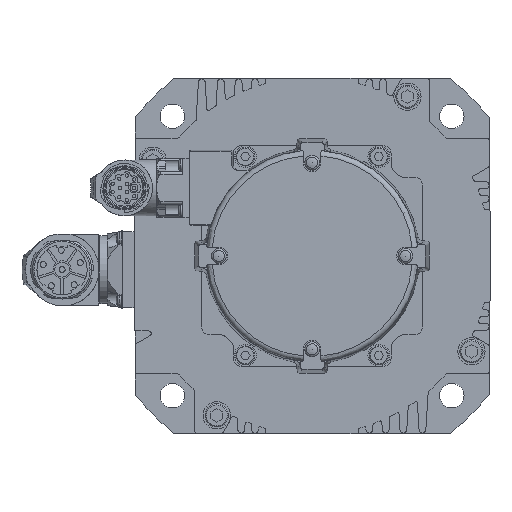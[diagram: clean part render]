
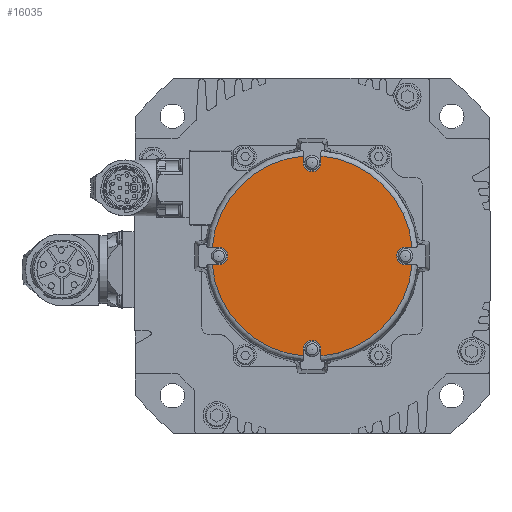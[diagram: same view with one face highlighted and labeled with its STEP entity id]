
A CAD part, left-side view. The second image highlights one B-rep face of the part: STEP entity #16035.
In plain terms, the highlighted planar face has unit normal (-1, 0, 0).
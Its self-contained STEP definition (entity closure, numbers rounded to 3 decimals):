
#700=LINE('',#24046,#2058);
#701=LINE('',#24051,#2059);
#702=LINE('',#24055,#2060);
#703=LINE('',#24059,#2061);
#704=LINE('',#24063,#2062);
#705=LINE('',#24067,#2063);
#706=LINE('',#24071,#2064);
#707=LINE('',#24075,#2065);
#2058=VECTOR('',#18937,1000.);
#2059=VECTOR('',#18940,1000.);
#2060=VECTOR('',#18943,1000.);
#2061=VECTOR('',#18946,1000.);
#2062=VECTOR('',#18949,1000.);
#2063=VECTOR('',#18952,1000.);
#2064=VECTOR('',#18955,1000.);
#2065=VECTOR('',#18958,1000.);
#3429=ORIENTED_EDGE('',*,*,#8284,.F.);
#3430=ORIENTED_EDGE('',*,*,#8285,.T.);
#3431=ORIENTED_EDGE('',*,*,#8286,.F.);
#3432=ORIENTED_EDGE('',*,*,#8287,.F.);
#3433=ORIENTED_EDGE('',*,*,#8288,.F.);
#3434=ORIENTED_EDGE('',*,*,#8289,.T.);
#3435=ORIENTED_EDGE('',*,*,#8290,.F.);
#3436=ORIENTED_EDGE('',*,*,#8291,.F.);
#3437=ORIENTED_EDGE('',*,*,#8292,.F.);
#3438=ORIENTED_EDGE('',*,*,#8293,.T.);
#3439=ORIENTED_EDGE('',*,*,#8294,.F.);
#3440=ORIENTED_EDGE('',*,*,#8295,.F.);
#3441=ORIENTED_EDGE('',*,*,#8296,.F.);
#3442=ORIENTED_EDGE('',*,*,#8297,.T.);
#3443=ORIENTED_EDGE('',*,*,#8298,.F.);
#3444=ORIENTED_EDGE('',*,*,#8299,.F.);
#8284=EDGE_CURVE('',#10711,#10712,#700,.T.);
#8285=EDGE_CURVE('',#10711,#10713,#12324,.T.);
#8286=EDGE_CURVE('',#10714,#10713,#701,.T.);
#8287=EDGE_CURVE('',#10715,#10714,#12325,.T.);
#8288=EDGE_CURVE('',#10716,#10715,#702,.T.);
#8289=EDGE_CURVE('',#10716,#10717,#12326,.T.);
#8290=EDGE_CURVE('',#10718,#10717,#703,.T.);
#8291=EDGE_CURVE('',#10719,#10718,#12327,.T.);
#8292=EDGE_CURVE('',#10720,#10719,#704,.T.);
#8293=EDGE_CURVE('',#10720,#10721,#12328,.T.);
#8294=EDGE_CURVE('',#10722,#10721,#705,.T.);
#8295=EDGE_CURVE('',#10723,#10722,#12329,.T.);
#8296=EDGE_CURVE('',#10724,#10723,#706,.T.);
#8297=EDGE_CURVE('',#10724,#10725,#12330,.T.);
#8298=EDGE_CURVE('',#10726,#10725,#707,.T.);
#8299=EDGE_CURVE('',#10712,#10726,#12331,.T.);
#10711=VERTEX_POINT('',#24047);
#10712=VERTEX_POINT('',#24048);
#10713=VERTEX_POINT('',#24050);
#10714=VERTEX_POINT('',#24052);
#10715=VERTEX_POINT('',#24054);
#10716=VERTEX_POINT('',#24056);
#10717=VERTEX_POINT('',#24058);
#10718=VERTEX_POINT('',#24060);
#10719=VERTEX_POINT('',#24062);
#10720=VERTEX_POINT('',#24064);
#10721=VERTEX_POINT('',#24066);
#10722=VERTEX_POINT('',#24068);
#10723=VERTEX_POINT('',#24070);
#10724=VERTEX_POINT('',#24072);
#10725=VERTEX_POINT('',#24074);
#10726=VERTEX_POINT('',#24076);
#12324=CIRCLE('',#17030,3.25);
#12325=CIRCLE('',#17031,36.85);
#12326=CIRCLE('',#17032,3.25);
#12327=CIRCLE('',#17033,36.85);
#12328=CIRCLE('',#17034,3.25);
#12329=CIRCLE('',#17035,36.85);
#12330=CIRCLE('',#17036,3.25);
#12331=CIRCLE('',#17037,36.85);
#13239=EDGE_LOOP('',(#3429,#3430,#3431,#3432,#3433,#3434,#3435,#3436,#3437,
#3438,#3439,#3440,#3441,#3442,#3443,#3444));
#14394=FACE_BOUND('',#13239,.T.);
#15543=PLANE('',#17029);
#16035=ADVANCED_FACE('',(#14394),#15543,.F.);
#17029=AXIS2_PLACEMENT_3D('',#24045,#18935,#18936);
#17030=AXIS2_PLACEMENT_3D('',#24049,#18938,#18939);
#17031=AXIS2_PLACEMENT_3D('',#24053,#18941,#18942);
#17032=AXIS2_PLACEMENT_3D('',#24057,#18944,#18945);
#17033=AXIS2_PLACEMENT_3D('',#24061,#18947,#18948);
#17034=AXIS2_PLACEMENT_3D('',#24065,#18950,#18951);
#17035=AXIS2_PLACEMENT_3D('',#24069,#18953,#18954);
#17036=AXIS2_PLACEMENT_3D('',#24073,#18956,#18957);
#17037=AXIS2_PLACEMENT_3D('',#24077,#18959,#18960);
#18935=DIRECTION('',(1.,0.,0.));
#18936=DIRECTION('',(0.,0.,-1.));
#18937=DIRECTION('',(0.,1.,0.));
#18938=DIRECTION('',(1.,0.,0.));
#18939=DIRECTION('',(0.,0.,-1.));
#18940=DIRECTION('',(0.,-1.,0.));
#18941=DIRECTION('',(1.,0.,0.));
#18942=DIRECTION('',(0.,0.,-1.));
#18943=DIRECTION('',(0.,0.,-1.));
#18944=DIRECTION('',(1.,0.,0.));
#18945=DIRECTION('',(0.,0.,-1.));
#18946=DIRECTION('',(0.,0.,1.));
#18947=DIRECTION('',(1.,0.,0.));
#18948=DIRECTION('',(0.,0.,-1.));
#18949=DIRECTION('',(0.,-1.,0.));
#18950=DIRECTION('',(1.,0.,0.));
#18951=DIRECTION('',(0.,0.,-1.));
#18952=DIRECTION('',(0.,1.,0.));
#18953=DIRECTION('',(1.,0.,0.));
#18954=DIRECTION('',(0.,0.,-1.));
#18955=DIRECTION('',(0.,0.,1.));
#18956=DIRECTION('',(1.,0.,0.));
#18957=DIRECTION('',(0.,0.,-1.));
#18958=DIRECTION('',(0.,0.,-1.));
#18959=DIRECTION('',(1.,0.,0.));
#18960=DIRECTION('',(0.,0.,-1.));
#24045=CARTESIAN_POINT('',(-149.,0.,0.));
#24046=CARTESIAN_POINT('',(-149.,34.25,3.25));
#24047=CARTESIAN_POINT('',(-149.,34.25,3.25));
#24048=CARTESIAN_POINT('',(-149.,36.706,3.25));
#24049=CARTESIAN_POINT('',(-149.,34.25,0.));
#24050=CARTESIAN_POINT('',(-149.,34.25,-3.25));
#24051=CARTESIAN_POINT('',(-149.,38.166,-3.25));
#24052=CARTESIAN_POINT('',(-149.,36.706,-3.25));
#24053=CARTESIAN_POINT('',(-149.,0.,0.));
#24054=CARTESIAN_POINT('',(-149.,3.25,-36.706));
#24055=CARTESIAN_POINT('',(-149.,3.25,-34.25));
#24056=CARTESIAN_POINT('',(-149.,3.25,-34.25));
#24057=CARTESIAN_POINT('',(-149.,0.,-34.25));
#24058=CARTESIAN_POINT('',(-149.,-3.25,-34.25));
#24059=CARTESIAN_POINT('',(-149.,-3.25,-38.166));
#24060=CARTESIAN_POINT('',(-149.,-3.25,-36.706));
#24061=CARTESIAN_POINT('',(-149.,0.,0.));
#24062=CARTESIAN_POINT('',(-149.,-36.706,-3.25));
#24063=CARTESIAN_POINT('',(-149.,-34.25,-3.25));
#24064=CARTESIAN_POINT('',(-149.,-34.25,-3.25));
#24065=CARTESIAN_POINT('',(-149.,-34.25,0.));
#24066=CARTESIAN_POINT('',(-149.,-34.25,3.25));
#24067=CARTESIAN_POINT('',(-149.,-38.166,3.25));
#24068=CARTESIAN_POINT('',(-149.,-36.706,3.25));
#24069=CARTESIAN_POINT('',(-149.,0.,0.));
#24070=CARTESIAN_POINT('',(-149.,-3.25,36.706));
#24071=CARTESIAN_POINT('',(-149.,-3.25,34.25));
#24072=CARTESIAN_POINT('',(-149.,-3.25,34.25));
#24073=CARTESIAN_POINT('',(-149.,0.,34.25));
#24074=CARTESIAN_POINT('',(-149.,3.25,34.25));
#24075=CARTESIAN_POINT('',(-149.,3.25,38.166));
#24076=CARTESIAN_POINT('',(-149.,3.25,36.706));
#24077=CARTESIAN_POINT('',(-149.,0.,0.));
